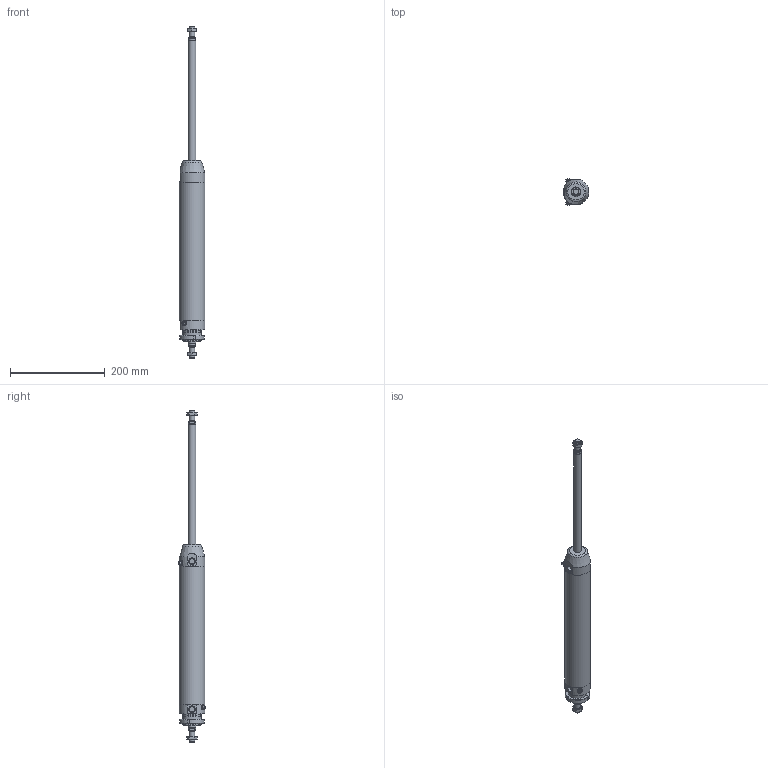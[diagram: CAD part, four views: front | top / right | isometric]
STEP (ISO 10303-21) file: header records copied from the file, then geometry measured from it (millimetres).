
FILE_DESCRIPTION(/* description */ (''),/* implementation_level */ '2;1');
FILE_NAME(/* name */ 'I:\Area Tecnica\Documenti\A-Manieri\_Inventor\12X\12X#T_###_####_#_#\12XDT_050_0250_#_#.stp',/* time_stamp */ '2015-05-13T09:09:16+02:00',/* author */ ('maniean1'),/* organization */ ('Pneumax S.p.A.'),/* preprocessor_version */ 'ST-DEVELOPER v15.2',/* originating_system */ 'Autodesk Inventor 2014',/* authorisation */ '');
FILE_SCHEMA (('AUTOMOTIVE_DESIGN { 1 0 10303 214 3 1 1 }'));
Length unit declared in the file: millimetre
Products named in the file (7): C1250_619-0250; 12X50_606; SP12X50_0250; 12X_50_11; 12X50_614; G12X_050_05; 12XDT_050_0250_#_#
Bounding box: 54 x 57.75 x 702 mm (x, y, z)
Volume: 466680.3 mm3; surface area: 171532.4 mm2
Topology: 7 solids, 7 shells, 125 faces, 280 edges, 180 vertices
Faces by surface type: plane 66, cylinder 30, cone 26, torus 3
Full cylindrical faces by diameter (mm): 5 x2, 10.2 x2, 11 x2, 11.4 x2, 12 x4, 14 x2, 15.6 x2, 16 x2, 38.2 x1, 40 x3, 50 x2, 54 x3
Entity records: 3058 total; most frequent: CARTESIAN_POINT 614, DIRECTION 513, ORIENTED_EDGE 402, AXIS2_PLACEMENT_3D 219, EDGE_CURVE 201, EDGE_LOOP 178, VERTEX_POINT 153, ADVANCED_FACE 114
